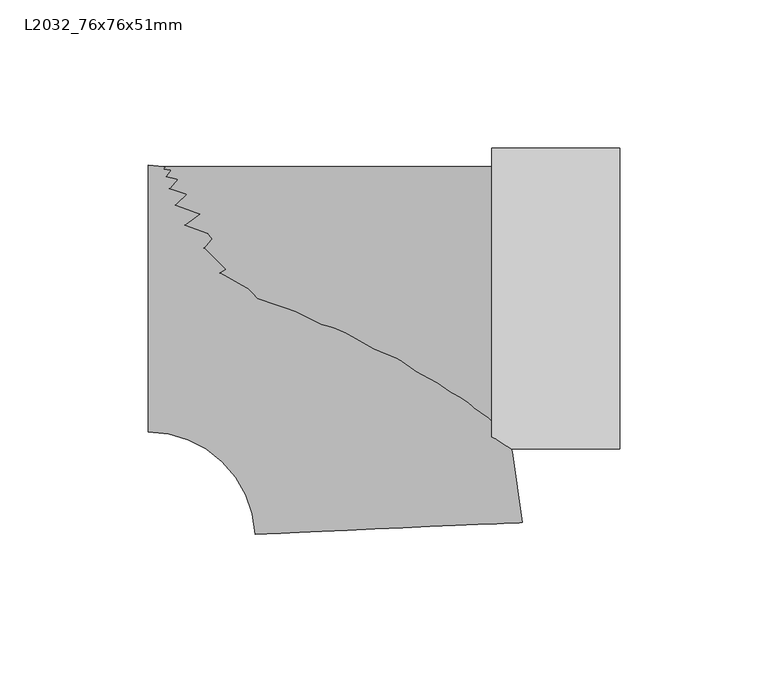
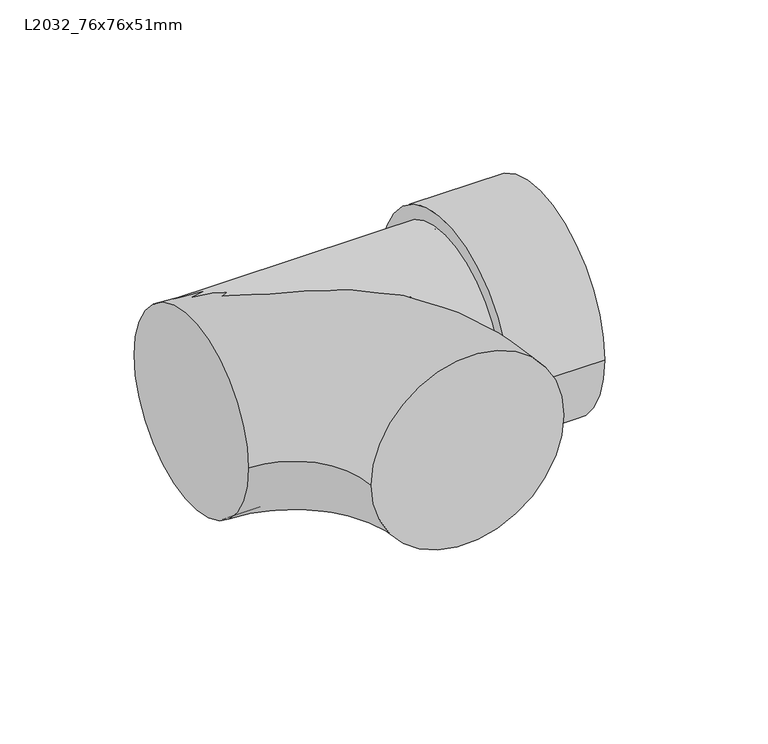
"""IFC4 building model written with IfcOpenShell, lengths in millimetres: pipe fitting geometry, Durapipe_PipeFitting_VulcatheneEnfusion_ReducingSweepTee_L20 : L2032_76x76x51mm."""

from ifc_helpers import new_model, si_unit, point, frame, origin, place, context, project, spatial, polyline, circle_curve, ellipse_curve, trimmed, source, transform, mapped, element, save
from ifc_brep_helpers import plane_surface, cylinder_surface, revolved_surface, advanced_brep


def l2032_76x76x51mm_d3f29df9(model_context):
    return source(origin(), model_context, "Body", "AdvancedBrep", [
        advanced_brep(
        [(46.1593689, -38.0, 0.0), (46.1593689, 38.0, 0.0), (46.1593689, 44.5, 0.0), (46.1593689, -44.5, 0.0), (38.1593689, -38.0, 0.0), (38.1593689, 38.0, 0.0), (38.1593689, -50.65, 0.0), (38.1593689, 50.65, 0.0), (81.1593689, -50.65, 0.0), (81.1593689, 50.65, 0.0), (81.1593689, -44.5, 0.0), (81.1593689, 44.5, 0.0)],
        [
            (0, 1, circle_curve(frame((46.1593689, 0.0, 0.0), z_axis=(-1.0, 0.0, 0.0), x_axis=(0.0, 1.0, 0.0)), 38.0)),
            (1, 2),
            (2, 3, circle_curve(frame((46.1593689, 0.0, 0.0), z_axis=(1.0, 0.0, 0.0), x_axis=(0.0, 1.0, 0.0)), 44.5)),
            (3, 0),
            (1, 0, circle_curve(frame((46.1593689, 0.0, 0.0), z_axis=(-1.0, 0.0, 0.0), x_axis=(0.0, 1.0, 0.0)), 38.0)),
            (3, 2, circle_curve(frame((46.1593689, 0.0, 0.0), z_axis=(1.0, 0.0, 0.0), x_axis=(0.0, 1.0, 0.0)), 44.5)),
            (4, 5, circle_curve(frame((38.1593689, 0.0, 0.0), z_axis=(-1.0, 0.0, 0.0), x_axis=(0.0, 1.0, 0.0)), 38.0)),
            (5, 1),
            (0, 4),
            (5, 4, circle_curve(frame((38.1593689, 0.0, 0.0), z_axis=(-1.0, 0.0, 0.0), x_axis=(0.0, 1.0, 0.0)), 38.0)),
            (6, 7, circle_curve(frame((38.1593689, 0.0, 0.0), z_axis=(-1.0, 0.0, 0.0), x_axis=(0.0, 1.0, 0.0)), 50.65)),
            (7, 5),
            (4, 6),
            (7, 6, circle_curve(frame((38.1593689, 0.0, 0.0), z_axis=(-1.0, 0.0, 0.0), x_axis=(0.0, 1.0, 0.0)), 50.65)),
            (8, 9, circle_curve(frame((81.1593689, 0.0, 0.0), z_axis=(-1.0, 0.0, 0.0), x_axis=(0.0, 1.0, 0.0)), 50.65)),
            (9, 7),
            (6, 8),
            (9, 8, circle_curve(frame((81.1593689, 0.0, 0.0), z_axis=(-1.0, 0.0, 0.0), x_axis=(0.0, 1.0, 0.0)), 50.65)),
            (10, 11, circle_curve(frame((81.1593689, 0.0, 0.0), z_axis=(-1.0, 0.0, 0.0), x_axis=(0.0, 1.0, 0.0)), 44.5)),
            (11, 9),
            (8, 10),
            (11, 10, circle_curve(frame((81.1593689, 0.0, 0.0), z_axis=(-1.0, 0.0, 0.0), x_axis=(0.0, 1.0, 0.0)), 44.5)),
            (2, 11),
            (10, 3),
        ],
        [
            plane_surface(frame((46.1593689, 0.0, 0.0), z_axis=(1.0, 0.0, 0.0), x_axis=(0.0, 1.0, 0.0))),
            revolved_surface(polyline([(46.15936890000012, 38.0, 0.0), (38.15936890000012, 38.0, 0.0)]), (2595.1419929, 0.0, 0.0), (1.0, 0.0, 0.0)),
            plane_surface(frame((38.1593689, 0.0, 0.0), z_axis=(-1.0, 0.0, 0.0), x_axis=(0.0, 1.0, 0.0))),
            cylinder_surface(frame((2595.1419929, 0.0, 0.0), z_axis=(1.0, 0.0, 0.0), x_axis=(0.0, 1.0, 0.0)), 50.65),
            plane_surface(frame((81.1593689, 0.0, 0.0), z_axis=(1.0, 0.0, 0.0), x_axis=(0.0, 1.0, 0.0))),
            revolved_surface(polyline([(81.15936890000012, 44.5, 0.0), (46.15936890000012, 44.5, 0.0)]), (2595.1419929, 0.0, 0.0), (1.0, 0.0, 0.0)),
        ],
        [
            (0, [[1, 2, 3, 4]]),
            (0, [[5, -4, 6, -2]]),
            (1, [[7, 8, -1, 9]]),
            (1, [[10, -9, -5, -8]]),
            (2, [[11, 12, -7, 13]]),
            (2, [[14, -13, -10, -12]]),
            (3, [[15, 16, -11, 17]]),
            (3, [[18, -17, -14, -16]]),
            (4, [[19, 20, -15, 21]]),
            (4, [[22, -21, -18, -20]]),
            (5, [[-3, 23, -19, 24]]),
            (5, [[-6, -24, -22, -23]]),
        ],
    ),
        advanced_brep(
        [(-77.5406311, -45.0, 0.0), (-77.5406311, 45.0, 0.0), (-41.5748951, -79.4297021, 0.0), (48.3394448, -75.5039572, 0.0)],
        [
            (0, 1, circle_curve(frame((-77.5406311, 0.0, 0.0), z_axis=(-1.0, 0.0, 0.0), x_axis=(0.0, 1.0, 0.0)), 45.0)),
            (1, 0, circle_curve(frame((-77.5406311, 0.0, 0.0), z_axis=(-1.0, 0.0, 0.0), x_axis=(0.0, 1.0, 0.0)), 45.0)),
            (2, 3, circle_curve(frame((3.3822748, -77.4668296, 0.0), z_axis=(0.0436193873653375, -0.9990482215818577, 0.0), x_axis=(0.9990482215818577, 0.0436193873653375, 0.0)), 45.0)),
            (3, 2, circle_curve(frame((3.3822748, -77.4668296, 0.0), z_axis=(0.0436193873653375, -0.9990482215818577, 0.0), x_axis=(0.9990482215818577, 0.0436193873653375, 0.0)), 45.0)),
            (0, 2, circle_curve(frame((-77.5406311, -81.0, 0.0), z_axis=(0.0, 0.0, -1.0), x_axis=(0.0, 1.0, 0.0)), 36.0)),
            (3, 1, circle_curve(frame((-77.5406311, -81.0, 0.0), z_axis=(0.0, 0.0, 1.0), x_axis=(0.0, 1.0, 0.0)), 126.0)),
        ],
        [
            plane_surface(frame((-77.5406311, 0.0, 0.0), z_axis=(-1.0, 0.0, 0.0), x_axis=(0.0, 0.0, 1.0))),
            plane_surface(frame((3.3822748, -77.4668296, 0.0), z_axis=(0.0436193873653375, -0.9990482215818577, 0.0), x_axis=(0.0, 0.0, 1.0))),
            revolved_surface(trimmed(ellipse_curve(frame((-77.5406311, 0.0, 0.0), z_axis=(-1.0, 0.0, 0.0), x_axis=(0.0, 1.0, 0.0)), 45.0, 45.0), [point((-77.5406311, -45.0, 0.0))], [point((-77.5406311, 45.0, 0.0))], True, "CARTESIAN"), (-77.5406311, -81.0, 0.0), (0.0, 0.0, -1.0)),
            revolved_surface(trimmed(ellipse_curve(frame((-77.5406311, 0.0, 0.0), z_axis=(-1.0, 0.0, 0.0), x_axis=(0.0, 1.0, 0.0)), 45.0, 45.0), [point((-77.5406311, 45.0, 0.0))], [point((-77.5406311, -45.0, 0.0))], True, "CARTESIAN"), (-77.5406311, -81.0, 0.0), (0.0, 0.0, -1.0)),
        ],
        [
            (0, [[1, 2]]),
            (1, [[3, 4]]),
            (2, [[-1, 5, -4, 6]]),
            (3, [[-2, -6, -3, -5]]),
        ],
    ),
        advanced_brep(
        [(-77.5406311, -44.5, 0.0), (-77.5406311, 44.5, 0.0), (46.1593689, 44.5, 0.0), (46.1593689, -44.5, 0.0), (-77.5406311, 0.0, 0.0), (46.1593689, 0.0, 0.0)],
        [
            (0, 1, circle_curve(frame((-77.5406311, 0.0, 0.0), z_axis=(1.0, 0.0, 0.0), x_axis=(0.0, 1.0, 0.0)), 44.5)),
            (1, 2),
            (2, 3, circle_curve(frame((46.1593689, 0.0, 0.0), z_axis=(-1.0, 0.0, 0.0), x_axis=(0.0, 1.0, 0.0)), 44.5)),
            (3, 0),
            (1, 0, circle_curve(frame((-77.5406311, 0.0, 0.0), z_axis=(1.0, 0.0, 0.0), x_axis=(0.0, 1.0, 0.0)), 44.5)),
            (3, 2, circle_curve(frame((46.1593689, 0.0, 0.0), z_axis=(-1.0, 0.0, 0.0), x_axis=(0.0, 1.0, 0.0)), 44.5)),
            (4, 1),
            (0, 4),
            (2, 5),
            (5, 3),
        ],
        [
            cylinder_surface(frame((-57.5406311, 0.0, 0.0), z_axis=(-1.0, 0.0, 0.0), x_axis=(0.0, 1.0, 0.0)), 44.5),
            plane_surface(frame((-77.5406311, 0.0, 0.0), z_axis=(-1.0, 0.0, 0.0), x_axis=(0.0, 1.0, 0.0))),
            plane_surface(frame((46.1593689, 0.0, 0.0), z_axis=(1.0, 0.0, 0.0), x_axis=(0.0, 1.0, 0.0))),
        ],
        [
            (0, [[1, 2, 3, 4]]),
            (0, [[5, -4, 6, -2]]),
            (1, [[7, -1, 8]]),
            (1, [[-8, -5, -7]]),
            (2, [[-3, 9, 10]]),
            (2, [[-6, -10, -9]]),
        ],
    ),
    ])


if __name__ == "__main__":
    model = new_model("IFC4")
    model_context = context("Model", 3, world=origin())
    ifc_project = project(units=[si_unit("LENGTHUNIT", "METRE", prefix="MILLI")], contexts=[model_context])
    site = spatial("IfcSite", under=ifc_project)
    building = spatial("IfcBuilding", under=site)
    placement = place(None, origin())
    l2032_76x76x51mm_shape = l2032_76x76x51mm_d3f29df9(model_context)
    element("IfcPipeFitting", 1, ObjectType="Durapipe_PipeFitting_VulcatheneEnfusion_ReducingSweepTee_L20 : L2032_76x76x51mm", at=placement, inside=building, context=model_context, shape_type="MappedRepresentation", body=[
        mapped(l2032_76x76x51mm_shape, transform((0.0, 0.0, 0.0), x_axis=(1.0, 0.0, 0.0), y_axis=(0.0, 1.0, 0.0), z_axis=(0.0, 0.0, 1.0))),
    ])
    save(model, "model.ifc")
